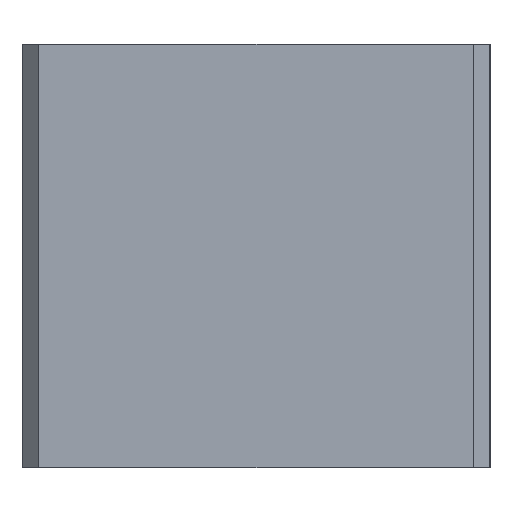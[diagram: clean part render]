
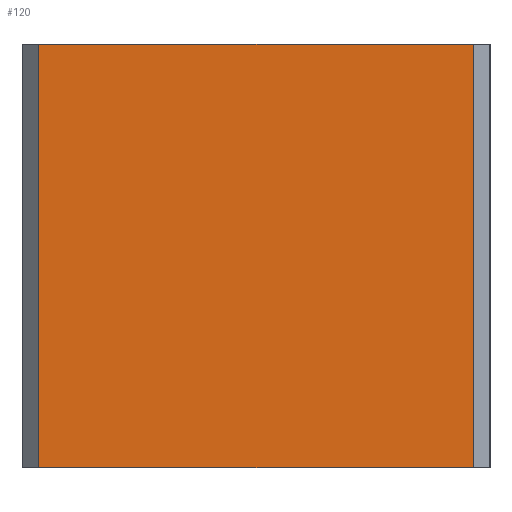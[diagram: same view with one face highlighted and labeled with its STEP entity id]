
A CAD part, left-side view. The second image highlights one B-rep face of the part: STEP entity #120.
In plain terms, the highlighted planar face has unit normal (-1, 0, 0).
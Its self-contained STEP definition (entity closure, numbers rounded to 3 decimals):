
#29 = LINE ( 'NONE', #466, #715 ) ;
#53 = LINE ( 'NONE', #382, #459 ) ;
#89 = DIRECTION ( 'NONE',  ( 0., 0., -1. ) ) ;
#93 = VERTEX_POINT ( 'NONE', #188 ) ;
#120 = ADVANCED_FACE ( 'NONE', ( #419 ), #521, .F. ) ;
#147 = LINE ( 'NONE', #407, #354 ) ;
#156 = ORIENTED_EDGE ( 'NONE', *, *, #163, .T. ) ;
#163 = EDGE_CURVE ( 'NONE', #369, #488, #29, .T. ) ;
#188 = CARTESIAN_POINT ( 'NONE',  ( -13.8, 12.8, 25. ) ) ;
#201 = DIRECTION ( 'NONE',  ( 0., 1., 0. ) ) ;
#206 = ORIENTED_EDGE ( 'NONE', *, *, #217, .T. ) ;
#217 = EDGE_CURVE ( 'NONE', #93, #369, #245, .T. ) ;
#218 = ORIENTED_EDGE ( 'NONE', *, *, #558, .F. ) ;
#221 = EDGE_CURVE ( 'NONE', #488, #617, #147, .T. ) ;
#245 = LINE ( 'NONE', #303, #496 ) ;
#249 = DIRECTION ( 'NONE',  ( 0., -1., 0. ) ) ;
#264 = AXIS2_PLACEMENT_3D ( 'NONE', #529, #353, #201 ) ;
#303 = CARTESIAN_POINT ( 'NONE',  ( -13.8, 12.8, 25. ) ) ;
#314 = CARTESIAN_POINT ( 'NONE',  ( -13.8, -12.8, 0. ) ) ;
#353 = DIRECTION ( 'NONE',  ( 1., 0., 0. ) ) ;
#354 = VECTOR ( 'NONE', #701, 1000. ) ;
#369 = VERTEX_POINT ( 'NONE', #680 ) ;
#382 = CARTESIAN_POINT ( 'NONE',  ( -13.8, 13., 25. ) ) ;
#407 = CARTESIAN_POINT ( 'NONE',  ( -13.8, -12.8, 25. ) ) ;
#419 = FACE_OUTER_BOUND ( 'NONE', #484, .T. ) ;
#459 = VECTOR ( 'NONE', #657, 1000. ) ;
#466 = CARTESIAN_POINT ( 'NONE',  ( -13.8, 13., 0. ) ) ;
#484 = EDGE_LOOP ( 'NONE', ( #156, #546, #218, #206 ) ) ;
#488 = VERTEX_POINT ( 'NONE', #314 ) ;
#496 = VECTOR ( 'NONE', #89, 1000. ) ;
#521 = PLANE ( 'NONE',  #264 ) ;
#529 = CARTESIAN_POINT ( 'NONE',  ( -13.8, 13., 25. ) ) ;
#546 = ORIENTED_EDGE ( 'NONE', *, *, #221, .T. ) ;
#558 = EDGE_CURVE ( 'NONE', #93, #617, #53, .T. ) ;
#617 = VERTEX_POINT ( 'NONE', #708 ) ;
#657 = DIRECTION ( 'NONE',  ( 0., -1., 0. ) ) ;
#680 = CARTESIAN_POINT ( 'NONE',  ( -13.8, 12.8, 0. ) ) ;
#701 = DIRECTION ( 'NONE',  ( 0., 0., 1. ) ) ;
#708 = CARTESIAN_POINT ( 'NONE',  ( -13.8, -12.8, 25. ) ) ;
#715 = VECTOR ( 'NONE', #249, 1000. ) ;
